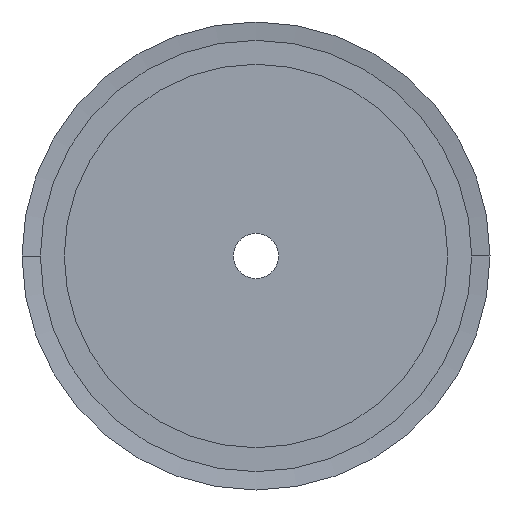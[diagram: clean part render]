
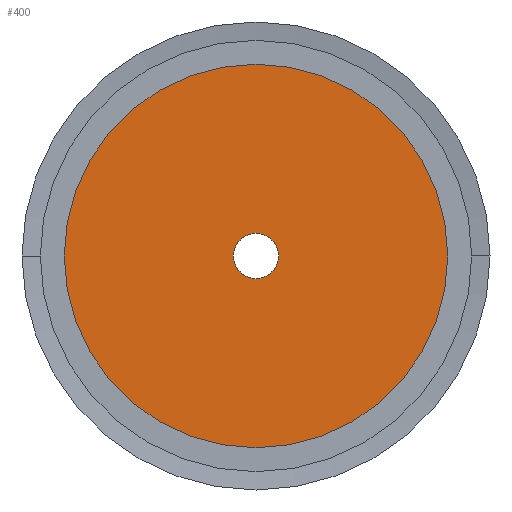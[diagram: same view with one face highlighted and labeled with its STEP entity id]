
A CAD part, left-side view. The second image highlights one B-rep face of the part: STEP entity #400.
In plain terms, the highlighted planar face has unit normal (-1, 0, 0).
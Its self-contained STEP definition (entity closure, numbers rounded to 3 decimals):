
#400 = ADVANCED_FACE( '', ( #1056, #1057 ), #1058, .T. );
#1056 = FACE_BOUND( '', #1713, .T. );
#1057 = FACE_OUTER_BOUND( '', #1714, .T. );
#1058 = PLANE( '', #1715 );
#1713 = EDGE_LOOP( '', ( #4397, #4398 ) );
#1714 = EDGE_LOOP( '', ( #4399, #4400 ) );
#1715 = AXIS2_PLACEMENT_3D( '', #4401, #4402, #4403 );
#4397 = ORIENTED_EDGE( '', *, *, #5253, .F. );
#4398 = ORIENTED_EDGE( '', *, *, #4419, .F. );
#4399 = ORIENTED_EDGE( '', *, *, #4407, .T. );
#4400 = ORIENTED_EDGE( '', *, *, #5258, .T. );
#4401 = CARTESIAN_POINT( '', ( 0., 19., 0. ) );
#4402 = DIRECTION( '', ( -1., 0., 0. ) );
#4403 = DIRECTION( '', ( 0., 1., 0. ) );
#4407 = EDGE_CURVE( '', #5260, #5264, #5266, .T. );
#4419 = EDGE_CURVE( '', #5288, #5284, #5290, .T. );
#5253 = EDGE_CURVE( '', #5284, #5288, #6642, .T. );
#5258 = EDGE_CURVE( '', #5264, #5260, #6647, .T. );
#5260 = VERTEX_POINT( '', #6649 );
#5264 = VERTEX_POINT( '', #6654 );
#5266 = CIRCLE( '', #6657, 34. );
#5284 = VERTEX_POINT( '', #6679 );
#5288 = VERTEX_POINT( '', #6684 );
#5290 = CIRCLE( '', #6687, 4. );
#6642 = CIRCLE( '', #8402, 4. );
#6647 = CIRCLE( '', #8407, 34. );
#6649 = CARTESIAN_POINT( '', ( 0., 34., 0. ) );
#6654 = CARTESIAN_POINT( '', ( 0., -34., 0. ) );
#6657 = AXIS2_PLACEMENT_3D( '', #8413, #8414, #8415 );
#6679 = CARTESIAN_POINT( '', ( 0., 4., 0. ) );
#6684 = CARTESIAN_POINT( '', ( 0., -4., 0. ) );
#6687 = AXIS2_PLACEMENT_3D( '', #8437, #8438, #8439 );
#8402 = AXIS2_PLACEMENT_3D( '', #10213, #10214, #10215 );
#8407 = AXIS2_PLACEMENT_3D( '', #10228, #10229, #10230 );
#8413 = CARTESIAN_POINT( '', ( 0., 0., 0. ) );
#8414 = DIRECTION( '', ( -1., 0., 0. ) );
#8415 = DIRECTION( '', ( 0., 1., 0. ) );
#8437 = CARTESIAN_POINT( '', ( 0., 0., 0. ) );
#8438 = DIRECTION( '', ( -1., 0., 0. ) );
#8439 = DIRECTION( '', ( 0., 1., 0. ) );
#10213 = CARTESIAN_POINT( '', ( 0., 0., 0. ) );
#10214 = DIRECTION( '', ( -1., 0., 0. ) );
#10215 = DIRECTION( '', ( 0., 1., 0. ) );
#10228 = CARTESIAN_POINT( '', ( 0., 0., 0. ) );
#10229 = DIRECTION( '', ( -1., 0., 0. ) );
#10230 = DIRECTION( '', ( 0., 1., 0. ) );
